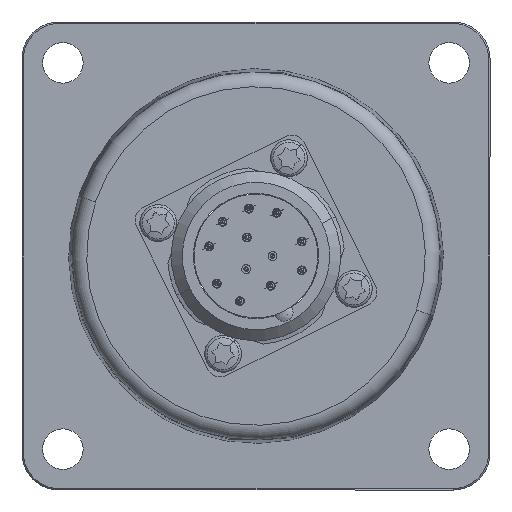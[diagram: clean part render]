
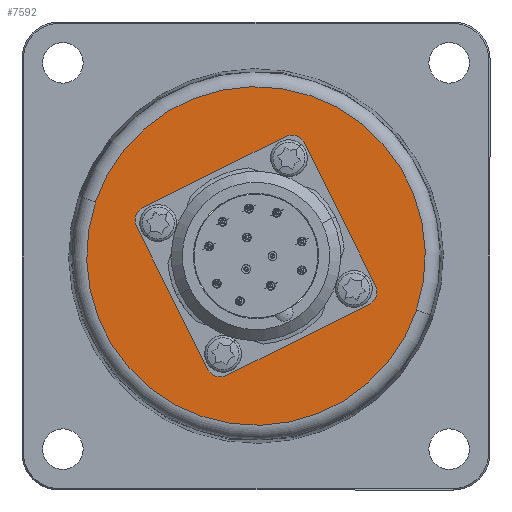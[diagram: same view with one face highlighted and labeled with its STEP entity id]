
A CAD part, left-side view. The second image highlights one B-rep face of the part: STEP entity #7592.
In plain terms, the highlighted planar face has unit normal (-1, 0, 0).
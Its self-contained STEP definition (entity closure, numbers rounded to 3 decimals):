
#2414 = DIRECTION ( 'NONE',  ( 0., 0.948, 0.319 ) ) ;
#2415 = DIRECTION ( 'NONE',  ( -1., 0., 0. ) ) ;
#2416 = AXIS2_PLACEMENT_3D ( 'NONE', #2446, #2415, #2414 ) ;
#2417 = CIRCLE ( 'NONE', #2416, 22.972 ) ;
#2446 = CARTESIAN_POINT ( 'NONE',  ( -21., 0., 0. ) ) ;
#2810 = DIRECTION ( 'NONE',  ( 0., -0.948, -0.319 ) ) ;
#2811 = DIRECTION ( 'NONE',  ( -1., 0., 0. ) ) ;
#2812 = CARTESIAN_POINT ( 'NONE',  ( -21., 0., 0. ) ) ;
#2813 = AXIS2_PLACEMENT_3D ( 'NONE', #2812, #2811, #2810 ) ;
#2814 = CIRCLE ( 'NONE', #2813, 11.5 ) ;
#2816 = CARTESIAN_POINT ( 'NONE',  ( -21., 10.898, 3.671 ) ) ;
#2817 = CARTESIAN_POINT ( 'NONE',  ( -21., -10.898, -3.671 ) ) ;
#2818 = DIRECTION ( 'NONE',  ( 0., -0.948, -0.319 ) ) ;
#2819 = DIRECTION ( 'NONE',  ( -1., 0., 0. ) ) ;
#2820 = CARTESIAN_POINT ( 'NONE',  ( -21., 0., 0. ) ) ;
#2821 = AXIS2_PLACEMENT_3D ( 'NONE', #2820, #2819, #2818 ) ;
#2822 = CIRCLE ( 'NONE', #2821, 11.5 ) ;
#2837 = DIRECTION ( 'NONE',  ( 0., 0.948, 0.319 ) ) ;
#2838 = DIRECTION ( 'NONE',  ( 1., 0., 0. ) ) ;
#2839 = CARTESIAN_POINT ( 'NONE',  ( -21., -13.268, -4.469 ) ) ;
#2840 = AXIS2_PLACEMENT_3D ( 'NONE', #2839, #2838, #2837 ) ;
#2841 = CIRCLE ( 'NONE', #2840, 1.389 ) ;
#2843 = CARTESIAN_POINT ( 'NONE',  ( -21., -14.584, -4.912 ) ) ;
#2844 = DIRECTION ( 'NONE',  ( 0., 0.948, 0.319 ) ) ;
#2845 = DIRECTION ( 'NONE',  ( 1., 0., 0. ) ) ;
#2846 = CARTESIAN_POINT ( 'NONE',  ( -21., -13.268, -4.469 ) ) ;
#2847 = AXIS2_PLACEMENT_3D ( 'NONE', #2846, #2845, #2844 ) ;
#2852 = CIRCLE ( 'NONE', #2847, 1.389 ) ;
#3062 = CARTESIAN_POINT ( 'NONE',  ( -21., 21.77, 7.332 ) ) ;
#3063 = CARTESIAN_POINT ( 'NONE',  ( -21., -21.77, -7.332 ) ) ;
#3064 = DIRECTION ( 'NONE',  ( 0., 0.948, 0.319 ) ) ;
#3065 = DIRECTION ( 'NONE',  ( -1., 0., 0. ) ) ;
#3066 = CARTESIAN_POINT ( 'NONE',  ( -21., 0., 0. ) ) ;
#3067 = AXIS2_PLACEMENT_3D ( 'NONE', #3066, #3065, #3064 ) ;
#3074 = CIRCLE ( 'NONE', #3067, 22.972 ) ;
#7592 = ADVANCED_FACE ( 'NONE', ( #9022, #9020, #9018, #9017, #9016, #9015 ), #8984, .F. ) ;
#7593 = EDGE_LOOP ( 'NONE', ( #7594, #7598 ) ) ;
#7594 = ORIENTED_EDGE ( 'NONE', *, *, #7595, .T. ) ;
#7595 = EDGE_CURVE ( 'NONE', #7596, #7597, #9085, .T. ) ;
#7596 = VERTEX_POINT ( 'NONE', #9080 ) ;
#7597 = VERTEX_POINT ( 'NONE', #9079 ) ;
#7598 = ORIENTED_EDGE ( 'NONE', *, *, #7599, .T. ) ;
#7599 = EDGE_CURVE ( 'NONE', #7597, #7596, #9075, .T. ) ;
#7600 = EDGE_LOOP ( 'NONE', ( #7601, #7620 ) ) ;
#7601 = ORIENTED_EDGE ( 'NONE', *, *, #7602, .T. ) ;
#7602 = EDGE_CURVE ( 'NONE', #7675, #7619, #9064, .T. ) ;
#7619 = VERTEX_POINT ( 'NONE', #9160 ) ;
#7620 = ORIENTED_EDGE ( 'NONE', *, *, #7621, .T. ) ;
#7621 = EDGE_CURVE ( 'NONE', #7619, #7675, #9117, .T. ) ;
#7622 = EDGE_LOOP ( 'NONE', ( #7623, #7627 ) ) ;
#7623 = ORIENTED_EDGE ( 'NONE', *, *, #7624, .T. ) ;
#7624 = EDGE_CURVE ( 'NONE', #7625, #7626, #9152, .T. ) ;
#7625 = VERTEX_POINT ( 'NONE', #9239 ) ;
#7626 = VERTEX_POINT ( 'NONE', #9237 ) ;
#7627 = ORIENTED_EDGE ( 'NONE', *, *, #7628, .T. ) ;
#7628 = EDGE_CURVE ( 'NONE', #7626, #7625, #9232, .T. ) ;
#7629 = EDGE_LOOP ( 'NONE', ( #7759, #7762 ) ) ;
#7630 = VERTEX_POINT ( 'NONE', #9225 ) ;
#7675 = VERTEX_POINT ( 'NONE', #9356 ) ;
#7745 = EDGE_LOOP ( 'NONE', ( #7746, #7748 ) ) ;
#7746 = ORIENTED_EDGE ( 'NONE', *, *, #7747, .T. ) ;
#7747 = EDGE_CURVE ( 'NONE', #7821, #7820, #2417, .T. ) ;
#7748 = ORIENTED_EDGE ( 'NONE', *, *, #7819, .T. ) ;
#7749 = EDGE_LOOP ( 'NONE', ( #7750, #7754 ) ) ;
#7750 = ORIENTED_EDGE ( 'NONE', *, *, #7751, .F. ) ;
#7751 = EDGE_CURVE ( 'NONE', #7752, #7753, #2822, .T. ) ;
#7752 = VERTEX_POINT ( 'NONE', #2817 ) ;
#7753 = VERTEX_POINT ( 'NONE', #2816 ) ;
#7754 = ORIENTED_EDGE ( 'NONE', *, *, #7755, .F. ) ;
#7755 = EDGE_CURVE ( 'NONE', #7753, #7752, #2814, .T. ) ;
#7759 = ORIENTED_EDGE ( 'NONE', *, *, #7760, .T. ) ;
#7760 = EDGE_CURVE ( 'NONE', #7630, #7761, #2852, .T. ) ;
#7761 = VERTEX_POINT ( 'NONE', #2843 ) ;
#7762 = ORIENTED_EDGE ( 'NONE', *, *, #7763, .T. ) ;
#7763 = EDGE_CURVE ( 'NONE', #7761, #7630, #2841, .T. ) ;
#7819 = EDGE_CURVE ( 'NONE', #7820, #7821, #3074, .T. ) ;
#7820 = VERTEX_POINT ( 'NONE', #3063 ) ;
#7821 = VERTEX_POINT ( 'NONE', #3062 ) ;
#8984 = PLANE ( 'NONE',  #8987 ) ;
#8987 = AXIS2_PLACEMENT_3D ( 'NONE', #9093, #9092, #9090 ) ;
#9015 = FACE_BOUND ( 'NONE', #7749, .T. ) ;
#9016 = FACE_OUTER_BOUND ( 'NONE', #7745, .T. ) ;
#9017 = FACE_BOUND ( 'NONE', #7629, .T. ) ;
#9018 = FACE_BOUND ( 'NONE', #7622, .T. ) ;
#9020 = FACE_BOUND ( 'NONE', #7600, .T. ) ;
#9022 = FACE_BOUND ( 'NONE', #7593, .T. ) ;
#9060 = DIRECTION ( 'NONE',  ( 0., 0.948, 0.319 ) ) ;
#9061 = DIRECTION ( 'NONE',  ( 1., 0., 0. ) ) ;
#9062 = CARTESIAN_POINT ( 'NONE',  ( -21., 4.469, -13.268 ) ) ;
#9063 = AXIS2_PLACEMENT_3D ( 'NONE', #9062, #9061, #9060 ) ;
#9064 = CIRCLE ( 'NONE', #9063, 1.389 ) ;
#9068 = DIRECTION ( 'NONE',  ( 0., 0.948, 0.319 ) ) ;
#9070 = DIRECTION ( 'NONE',  ( 1., 0., 0. ) ) ;
#9072 = CARTESIAN_POINT ( 'NONE',  ( -21., 13.268, 4.469 ) ) ;
#9073 = AXIS2_PLACEMENT_3D ( 'NONE', #9072, #9070, #9068 ) ;
#9075 = CIRCLE ( 'NONE', #9073, 1.389 ) ;
#9079 = CARTESIAN_POINT ( 'NONE',  ( -21., 11.952, 4.026 ) ) ;
#9080 = CARTESIAN_POINT ( 'NONE',  ( -21., 14.584, 4.912 ) ) ;
#9081 = DIRECTION ( 'NONE',  ( 0., 0.948, 0.319 ) ) ;
#9083 = DIRECTION ( 'NONE',  ( 1., 0., 0. ) ) ;
#9084 = AXIS2_PLACEMENT_3D ( 'NONE', #9094, #9083, #9081 ) ;
#9085 = CIRCLE ( 'NONE', #9084, 1.389 ) ;
#9090 = DIRECTION ( 'NONE',  ( 0., 0.948, 0.319 ) ) ;
#9092 = DIRECTION ( 'NONE',  ( 1., 0., 0. ) ) ;
#9093 = CARTESIAN_POINT ( 'NONE',  ( -21., 0., 0. ) ) ;
#9094 = CARTESIAN_POINT ( 'NONE',  ( -21., 13.268, 4.469 ) ) ;
#9117 = CIRCLE ( 'NONE', #9159, 1.389 ) ;
#9118 = CARTESIAN_POINT ( 'NONE',  ( -21., -4.469, 13.268 ) ) ;
#9148 = DIRECTION ( 'NONE',  ( 0., 0.948, 0.319 ) ) ;
#9149 = DIRECTION ( 'NONE',  ( 1., 0., 0. ) ) ;
#9151 = AXIS2_PLACEMENT_3D ( 'NONE', #9118, #9149, #9148 ) ;
#9152 = CIRCLE ( 'NONE', #9151, 1.389 ) ;
#9153 = DIRECTION ( 'NONE',  ( 0., 0.948, 0.319 ) ) ;
#9155 = DIRECTION ( 'NONE',  ( 1., 0., 0. ) ) ;
#9157 = CARTESIAN_POINT ( 'NONE',  ( -21., 4.469, -13.268 ) ) ;
#9159 = AXIS2_PLACEMENT_3D ( 'NONE', #9157, #9155, #9153 ) ;
#9160 = CARTESIAN_POINT ( 'NONE',  ( -21., 3.153, -13.712 ) ) ;
#9225 = CARTESIAN_POINT ( 'NONE',  ( -21., -11.952, -4.026 ) ) ;
#9226 = DIRECTION ( 'NONE',  ( 0., 0.948, 0.319 ) ) ;
#9228 = DIRECTION ( 'NONE',  ( 1., 0., 0. ) ) ;
#9230 = CARTESIAN_POINT ( 'NONE',  ( -21., -4.469, 13.268 ) ) ;
#9231 = AXIS2_PLACEMENT_3D ( 'NONE', #9230, #9228, #9226 ) ;
#9232 = CIRCLE ( 'NONE', #9231, 1.389 ) ;
#9237 = CARTESIAN_POINT ( 'NONE',  ( -21., -5.785, 12.825 ) ) ;
#9239 = CARTESIAN_POINT ( 'NONE',  ( -21., -3.153, 13.712 ) ) ;
#9356 = CARTESIAN_POINT ( 'NONE',  ( -21., 5.785, -12.825 ) ) ;
